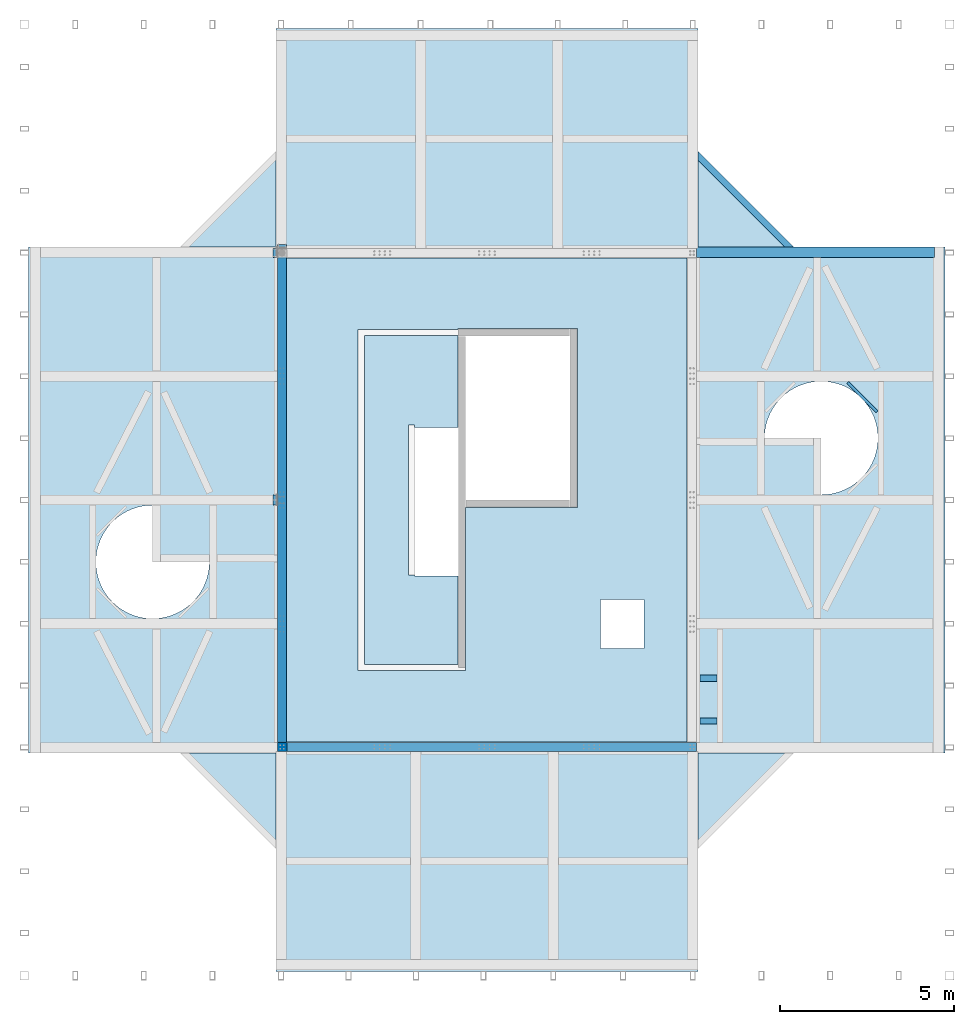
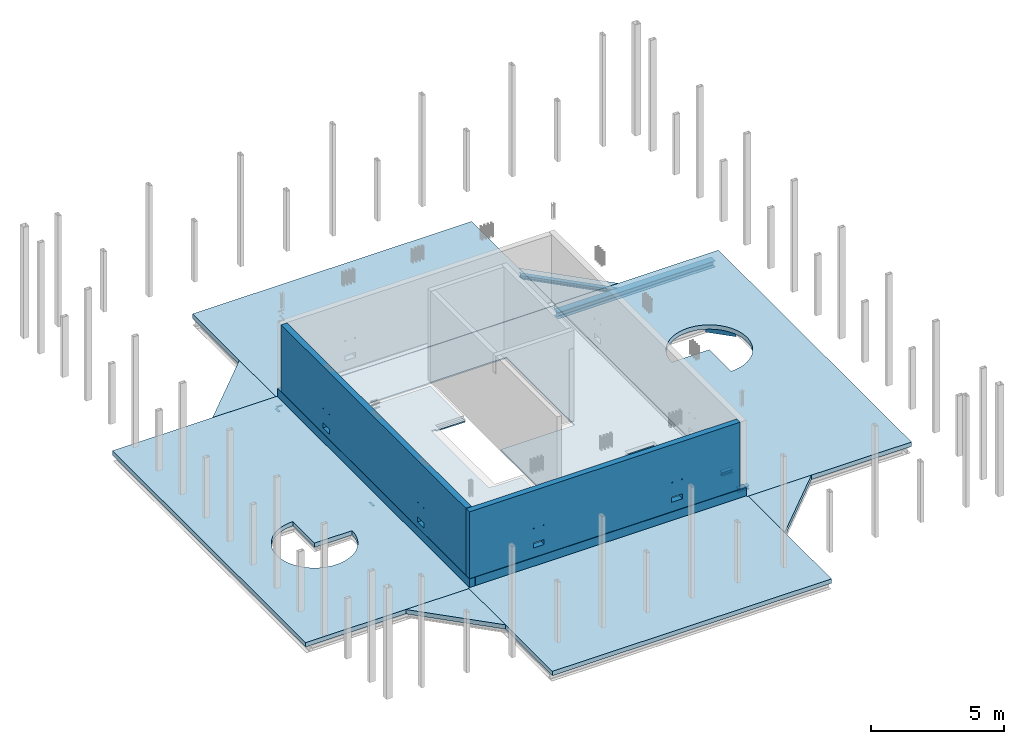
# One storey, part 10 of 16: 10 slabs, 8 beams, 4 walls, 16 openings.
"""IFC2X3 building model written with IfcOpenShell, lengths in millimetres."""

from ifc_helpers import new_model, entity, si_unit, converted_unit, derived_unit, direction, frame, frame_2d, origin, origin_2d_with_axis, place, context, subcontext, project, spatial, polyline, circle_curve, parameter, trimmed, segment, composite_curve, rectangle, circle, i_section, outline, extrude, clip, halfspace, source, transform, mapped, material, layer, layer_set, layer_usage, type_object, type_shapes, element, save


model = new_model("IFC2X3")

# Units and contexts
model_context = context("Model", 3, precision=0.01, world=origin(), true_north=direction((6.12303176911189e-17, 1.0)))
body_context = subcontext(model_context, "Body", "Model", "MODEL_VIEW")
ifc_project = project(units=[si_unit("LENGTHUNIT", "METRE", prefix="MILLI"), si_unit("AREAUNIT", "SQUARE_METRE"), si_unit("VOLUMEUNIT", "CUBIC_METRE"), converted_unit("PLANEANGLEUNIT", "DEGREE", entity("IfcRatioMeasure", 0.0174532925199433), si_unit("PLANEANGLEUNIT", "RADIAN"), dimensions=[0, 0, 0, 0, 0, 0, 0]), si_unit("MASSUNIT", "GRAM", prefix="KILO"), derived_unit("MASSDENSITYUNIT", [(si_unit("MASSUNIT", "GRAM", prefix="KILO"), 1), (si_unit("LENGTHUNIT", "METRE"), -3)]), si_unit("TIMEUNIT", "SECOND"), si_unit("FREQUENCYUNIT", "HERTZ"), si_unit("THERMODYNAMICTEMPERATUREUNIT", "DEGREE_CELSIUS"), derived_unit("THERMALTRANSMITTANCEUNIT", [(si_unit("MASSUNIT", "GRAM", prefix="KILO"), 1), (si_unit("THERMODYNAMICTEMPERATUREUNIT", "KELVIN"), -1), (si_unit("TIMEUNIT", "SECOND"), -3)]), derived_unit("VOLUMETRICFLOWRATEUNIT", [(si_unit("LENGTHUNIT", "METRE"), 3), (si_unit("TIMEUNIT", "SECOND"), -1)]), si_unit("ELECTRICCURRENTUNIT", "AMPERE"), si_unit("ELECTRICVOLTAGEUNIT", "VOLT"), si_unit("POWERUNIT", "WATT"), si_unit("FORCEUNIT", "NEWTON", prefix="KILO"), si_unit("ILLUMINANCEUNIT", "LUX"), si_unit("LUMINOUSFLUXUNIT", "LUMEN"), si_unit("LUMINOUSINTENSITYUNIT", "CANDELA"), derived_unit("USERDEFINED", [(si_unit("MASSUNIT", "GRAM", prefix="KILO"), -1), (si_unit("LENGTHUNIT", "METRE"), -2), (si_unit("TIMEUNIT", "SECOND"), 3), (si_unit("LUMINOUSFLUXUNIT", "LUMEN"), 1)]), derived_unit("LINEARVELOCITYUNIT", [(si_unit("LENGTHUNIT", "METRE"), 1), (si_unit("TIMEUNIT", "SECOND"), -1)]), si_unit("PRESSUREUNIT", "PASCAL"), derived_unit("USERDEFINED", [(si_unit("LENGTHUNIT", "METRE"), -2), (si_unit("MASSUNIT", "GRAM", prefix="KILO"), 1), (si_unit("TIMEUNIT", "SECOND"), -2)])], contexts=[model_context])

# Site, building, storey
site_placement = place(None, origin())
site = spatial("IfcSite", under=ifc_project, at=site_placement, Name="Default", CompositionType="ELEMENT")
building_placement = place(site_placement, origin())
building = spatial("IfcBuilding", under=site, at=building_placement, Name="niet gebruiken", CompositionType="ELEMENT")
storey_placement = place(building_placement, frame((0.0, 0.0, 183150.0)))
storey = spatial("IfcBuildingStorey", under=building, at=storey_placement, Name="58 achtenvijftigste verdieping", CompositionType="ELEMENT", Elevation=183150.0)

# Beams
ifc_material_1 = material(Name="NLRS_h2_staal")
beam_type_1 = type_object("IfcBeamType", Name="NLRS_28.11_SF_WPB_stalen ligger HEA_gen:ligger HEA 300", PredefinedType="BEAM")
beam_1_placement = place(storey_placement, frame((154580.0, 24600.0, -570.0), z_axis=(0.0, 0.0, 1.0), x_axis=(-1.0, 0.0, 0.0)))
element("IfcBeam", 1, at=beam_1_placement, inside=storey, type_object=beam_type_1, material=ifc_material_1, Name="NLRS_28.11_SF_WPB_stalen ligger HEA_gen:ligger HEA 300", ObjectType="NLRS_28.11_SF_WPB_stalen ligger HEA_gen:ligger HEA 300", context=body_context, shape_type="SweptSolid", body=[
    extrude(i_section(OverallWidth=300.000000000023, OverallDepth=290.000000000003, WebThickness=8.4999999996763, FlangeThickness=14.0000000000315, FilletRadius=27.0000000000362, at=frame_2d((-3.46460637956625e-11, 0.0), x_axis=(0.0, 1.0))), frame((0.0, 0.0, -145.0), z_axis=(1.0, 0.0, 0.0), x_axis=(0.0, 0.0, -1.0)), (0.0, 0.0, 1.0), 6830.00000000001),
])
beam_type_2 = type_object("IfcBeamType", Name="NLRS_28.11_SF_WPB_stalen ligger HEA_gen:ligger HEA 180", PredefinedType="BEAM")
beam_2_placement = place(storey_placement, frame((150772.26049696, 24390.460282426, -570.0), z_axis=(0.0, 0.0, 1.0), x_axis=(-0.70710678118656, 0.707106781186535, 0.0)))
element("IfcBeam", 2, at=beam_2_placement, inside=storey, type_object=beam_type_2, material=ifc_material_1, Name="NLRS_28.11_SF_WPB_stalen ligger HEA_gen:ligger HEA 180", ObjectType="NLRS_28.11_SF_WPB_stalen ligger HEA_gen:ligger HEA 180", context=body_context, shape_type="Clipping", body=[
    clip(clip(extrude(outline(composite_curve([segment(polyline([(76.0, -90.0), (85.5000000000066, -90.0)]), True, "CONTINUOUS"), segment(polyline([(85.5000000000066, -90.0), (85.5000000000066, 90.0)]), True, "CONTINUOUS"), segment(polyline([(85.5000000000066, 90.0), (76.0, 90.0)]), True, "CONTINUOUS"), segment(polyline([(76.0, 90.0), (76.0, 18.0)]), True, "CONTINUOUS"), segment(trimmed(circle_curve(frame_2d((61.0, 18.0), x_axis=(1.0, 0.0)), 15.0000000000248), [parameter(270.000000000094)], [parameter(0.0)], True, "PARAMETER"), False, "CONTINUOUS"), segment(polyline([(61.0, 3.0), (-61.0, 3.0)]), True, "CONTINUOUS"), segment(trimmed(circle_curve(frame_2d((-61.0, 18.0), x_axis=(0.0, -1.0)), 15.0000000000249), [parameter(270.000000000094)], [parameter(0.0)], True, "PARAMETER"), False, "CONTINUOUS"), segment(polyline([(-76.0, 18.0), (-76.0, 90.0)]), True, "CONTINUOUS"), segment(polyline([(-76.0, 90.0), (-85.5000000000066, 90.0)]), True, "CONTINUOUS"), segment(polyline([(-85.5000000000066, 90.0), (-85.5000000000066, -90.0)]), True, "CONTINUOUS"), segment(polyline([(-85.5000000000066, -90.0), (-76.0, -90.0)]), True, "CONTINUOUS"), segment(polyline([(-76.0, -90.0), (-76.0, -18.0)]), True, "CONTINUOUS"), segment(trimmed(circle_curve(frame_2d((-61.0, -18.0), x_axis=(-1.0, 0.0)), 15.0000000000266), [parameter(270.000000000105)], [parameter(0.0)], True, "PARAMETER"), False, "CONTINUOUS"), segment(polyline([(-61.0, -3.0), (61.0, -3.0)]), True, "CONTINUOUS"), segment(trimmed(circle_curve(frame_2d((61.0, -18.0), x_axis=(0.0, 1.0)), 15.0000000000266), [parameter(270.000000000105)], [parameter(0.0)], True, "PARAMETER"), False, "CONTINUOUS"), segment(polyline([(76.0, -18.0), (76.0, -90.0)]), True, "CONTINUOUS")], self_intersect=False)), frame((418.465944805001, 0.0, -85.5000000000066), z_axis=(1.0, 0.0, 0.0), x_axis=(0.0, 0.0, -1.0)), (0.0, 0.0, 1.0), 3874.94516090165), halfspace(frame((897.375497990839, 388.909553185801, -5005.5), z_axis=(-0.707106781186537, 0.707106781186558, 0.0), x_axis=(0.0, 0.0, 1.0)), False)), halfspace(frame((-22608.541775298, 26811.9528810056, 2165.0), z_axis=(0.70710678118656, 0.707106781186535, 0.0), x_axis=(-0.707106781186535, 0.70710678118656, 0.0)), False)),
])
for number, where, name in (
    (3, (147850.0, 11169.9999452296, -570.0), "NLRS_28.11_SF_WPB_stalen ligger HEA_gen:ligger HEA 180"),
    (4, (147850.0, 12389.9999452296, -570.0), "NLRS_28.11_SF_WPB_stalen ligger HEA_gen:ligger HEA 180"),
):
    element("IfcBeam", number, at=place(storey_placement, frame(where)), inside=storey, type_object=beam_type_2, material=ifc_material_1, Name=name, ObjectType="NLRS_28.11_SF_WPB_stalen ligger HEA_gen:ligger HEA 180", context=body_context, shape_type="SweptSolid", body=[
        extrude(i_section(OverallWidth=180.000000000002, OverallDepth=171.000000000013, WebThickness=5.99999999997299, FlangeThickness=9.49999999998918, FilletRadius=15.0000000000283, at=frame_2d((-3.46531692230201e-11, 1.08713038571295e-12), x_axis=(0.0, 1.0))), frame((0.0, 0.0, -85.5000000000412), z_axis=(1.0, 0.0, 0.0), x_axis=(0.0, 0.0, -1.0)), (0.0, 0.0, 1.0), 489.999999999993),
    ])
beam_type_3 = type_object("IfcBeamType", Name="NLRS_28.11_SF_WPB_stalen ligger UNP_gen:ligger UNP 200", PredefinedType="BEAM")
beam_3_placement = place(storey_placement, frame((153045.0, 19858.0970388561, -570.0), z_axis=(0.0, 0.0, 1.0), x_axis=(-0.707106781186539, 0.707106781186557, 0.0)))
element("IfcBeam", 5, at=beam_3_placement, inside=storey, type_object=beam_type_3, material=ifc_material_1, Name="NLRS_28.11_SF_WPB_stalen ligger UNP_gen:ligger UNP 200", ObjectType="NLRS_28.11_SF_WPB_stalen ligger UNP_gen:ligger UNP 200", context=body_context, shape_type="SweptSolid", body=[
    extrude(outline(composite_curve([segment(polyline([(94.8577017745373, -33.7500000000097), (99.9376027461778, -33.7500000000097)]), True, "CONTINUOUS"), segment(polyline([(99.9376027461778, -33.7499999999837), (99.9376027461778, 41.250000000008)]), True, "CONTINUOUS"), segment(polyline([(99.9376027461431, 41.250000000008), (-100.062397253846, 41.250000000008)]), True, "CONTINUOUS"), segment(polyline([(-100.062397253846, 41.250000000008), (-100.062397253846, -33.7500000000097)]), True, "CONTINUOUS"), segment(polyline([(-100.062397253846, -33.7500000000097), (-95.2474593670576, -33.7500000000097)]), True, "CONTINUOUS"), segment(trimmed(circle_curve(frame_2d((-95.2474593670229, -27.7500000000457), x_axis=(0.0, -1.0)), 5.9999999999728), [parameter(0.0)], [parameter(90.0000000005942)], True, "PARAMETER"), True, "CONTINUOUS"), segment(polyline([(-89.2474593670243, -27.7500000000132), (-85.3908606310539, 21.2499999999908)]), True, "CONTINUOUS"), segment(trimmed(circle_curve(frame_2d((-73.8908606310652, 21.2500000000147), x_axis=(-1.0, 0.0)), 11.4999999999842), [parameter(269.999999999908)], [parameter(0.0)], True, "PARAMETER"), False, "CONTINUOUS"), segment(polyline([(-73.8908606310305, 32.7499999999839), (74.4054127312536, 32.7499999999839)]), True, "CONTINUOUS"), segment(trimmed(circle_curve(frame_2d((74.4054127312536, 21.2500000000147), x_axis=(0.0, 1.0)), 11.4999999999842), [parameter(269.999999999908)], [parameter(0.0)], True, "PARAMETER"), False, "CONTINUOUS"), segment(polyline([(85.9054127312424, 21.2499999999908), (88.8577017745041, -27.7500000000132)]), True, "CONTINUOUS"), segment(trimmed(circle_curve(frame_2d((94.857701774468, -27.7500000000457), x_axis=(-1.0, 0.0)), 5.9999999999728), [parameter(0.0)], [parameter(90.0000000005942)], True, "PARAMETER"), True, "CONTINUOUS")], self_intersect=False)), frame((202.279220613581, -41.2500000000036, -100.062397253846), z_axis=(1.0, 0.0, 0.0), x_axis=(0.0, 0.0, -1.0)), (0.0, 0.0, 1.0), 1186.19407771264),
])
beam_type_4 = type_object("IfcBeamType", Name="ligger stripstaal RECT_250x15", PredefinedType="BEAM", material=ifc_material_1)
shared_shape_1 = source(origin(), body_context, "Body", "SweptSolid", [
    extrude(rectangle(XDim=100.000000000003, YDim=250.000000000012, at=origin_2d_with_axis()), frame((135875.0, 24775.0, 182265.0), z_axis=(0.0, 0.0, 1.0), x_axis=(0.0, -1.0, 0.0)), (0.0, 0.0, 1.0), 14.9999999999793),
    extrude(rectangle(XDim=100.000000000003, YDim=250.000000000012, at=origin_2d_with_axis()), frame((135875.0, 24775.0, 182265.0), z_axis=(0.0, 0.0, 1.0), x_axis=(0.0, -1.0, 0.0)), (0.0, 0.0, 1.0), 14.9999999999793),
])
type_shapes(beam_type_4, [shared_shape_1])
beam_4_placement = place(storey_placement, frame((0.0, 0.0, -183150.0)))
element("IfcBeam", 6, at=beam_4_placement, inside=storey, type_object=beam_type_4, material=ifc_material_1, Name="NLRS_28.11_SF_WPB_stalen ligger stripstaal_gen:ligger stripstaal RECT_250x15", ObjectType="ligger stripstaal RECT_250x15", context=body_context, shape_type="MappedRepresentation", body=[
    mapped(shared_shape_1, transform((0.0, 0.0, 0.0), scale=1.0)),
])
beam_type_5 = type_object("IfcBeamType", Name="ligger stripstaal RECT_250x15", PredefinedType="BEAM", material=ifc_material_1)
shared_shape_2 = source(origin(), body_context, "Body", "SweptSolid", [
    extrude(rectangle(XDim=100.000000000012, YDim=249.999999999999, at=frame_2d((8.66506866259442e-12, 0.0), x_axis=(1.0, 0.0))), frame((135674.972129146, 24575.0, 182265.0)), (0.0, 0.0, 1.0), 14.9999999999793),
    extrude(rectangle(XDim=100.000000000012, YDim=249.999999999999, at=frame_2d((8.66506866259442e-12, 0.0), x_axis=(1.0, 0.0))), frame((135674.972129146, 24575.0, 182265.0)), (0.0, 0.0, 1.0), 14.9999999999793),
])
type_shapes(beam_type_5, [shared_shape_2])
beam_5_placement = place(storey_placement, frame((0.0, 0.0, -183150.0)))
element("IfcBeam", 7, at=beam_5_placement, inside=storey, type_object=beam_type_5, material=ifc_material_1, Name="NLRS_28.11_SF_WPB_stalen ligger stripstaal_gen:ligger stripstaal RECT_250x15", ObjectType="ligger stripstaal RECT_250x15", context=body_context, shape_type="MappedRepresentation", body=[
    mapped(shared_shape_2, transform((0.0, 0.0, 0.0), scale=1.0)),
])
beam_type_6 = type_object("IfcBeamType", Name="ligger stripstaal RECT_300x15", PredefinedType="BEAM", material=ifc_material_1)
shared_shape_3 = source(origin(), body_context, "Body", "SweptSolid", [
    extrude(rectangle(XDim=100.000000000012, YDim=300.000000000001, at=origin_2d_with_axis()), frame((135674.972129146, 17500.0, 182255.0)), (0.0, 0.0, 1.0), 14.9999999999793),
    extrude(rectangle(XDim=100.000000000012, YDim=300.000000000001, at=origin_2d_with_axis()), frame((135674.972129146, 17500.0, 182255.0)), (0.0, 0.0, 1.0), 14.9999999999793),
])
type_shapes(beam_type_6, [shared_shape_3])
beam_6_placement = place(storey_placement, frame((0.0, 0.0, -183150.0)))
element("IfcBeam", 8, at=beam_6_placement, inside=storey, type_object=beam_type_6, material=ifc_material_1, Name="NLRS_28.11_SF_WPB_stalen ligger stripstaal_gen:ligger stripstaal RECT_300x15", ObjectType="ligger stripstaal RECT_300x15", context=body_context, shape_type="MappedRepresentation", body=[
    mapped(shared_shape_3, transform((0.0, 0.0, 0.0), scale=1.0)),
])

# Slabs
ifc_material_2 = material(Name="NLRS_f2_beton ihwg")
ifc_layer_1 = layer(ifc_material_2, 200.0)
ifc_layer_set_1 = layer_set([ifc_layer_1], Name="Floor:NLRS_23.21_FL_staalplaatbetonvloer d=200_gen")
ifc_layer_usage_1 = layer_usage(ifc_layer_set_1, "AXIS3", "POSITIVE", 0.0)
slab_1_placement = place(storey_placement, origin())
element("IfcSlab", 9, at=slab_1_placement, inside=storey, material=ifc_layer_usage_1, Name="Floor:NLRS_23.21_FL_staalplaatbetonvloer d=200_gen", ObjectType="Floor:NLRS_23.21_FL_staalplaatbetonvloer d=200_gen", PredefinedType="FLOOR", context=body_context, shape_type="SweptSolid", body=[
    extrude(outline(polyline([(-2068.33333333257, -4050.0), (4186.66666666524, -4050.0), (4186.66666666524, 8050.0), (-2118.33333333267, 8050.0), (-2118.33333333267, -4000.0), (-2068.33333333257, -4000.0), (-2068.33333333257, -4050.0)])), frame((139750.0, 26818.3333333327, -370.0), z_axis=(0.0, 0.0, -1.0), x_axis=(0.0, 1.0, 0.0)), (0.0, 0.0, 1.0), 199.999999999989),
])
ifc_layer_usage_2 = layer_usage(ifc_layer_set_1, "AXIS3", "POSITIVE", 0.0)
slab_2_placement = place(storey_placement, origin())
element("IfcSlab", 10, at=slab_2_placement, inside=storey, material=ifc_layer_usage_2, Name="Floor:NLRS_23.21_FL_staalplaatbetonvloer d=200_gen", ObjectType="Floor:NLRS_23.21_FL_staalplaatbetonvloer d=200_gen", PredefinedType="FLOOR", context=body_context, shape_type="SweptSolid", body=[
    extrude(outline(polyline([(-913.333333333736, -913.333333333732), (1826.66666666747, -913.333333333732), (-913.333333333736, 1826.66666666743), (-913.333333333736, -913.333333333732)])), frame((134786.666666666, 9336.66666666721, -370.0), z_axis=(0.0, 0.0, -1.0), x_axis=(0.0, -1.0, 0.0)), (0.0, 0.0, 1.0), 199.999999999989),
])

# Slab, opening
ifc_layer_usage_3 = layer_usage(ifc_layer_set_1, "AXIS3", "POSITIVE", 0.0)
slab_3_placement = place(storey_placement, frame((147750.0, 10250.0, -570.0)))
slab_3 = element("IfcSlab", 11, at=slab_3_placement, inside=storey, material=ifc_layer_usage_3, Name="Floor:NLRS_23.21_FL_staalplaatbetonvloer d=200_gen", ObjectType="Floor:NLRS_23.21_FL_staalplaatbetonvloer d=200_gen", PredefinedType="FLOOR", context=body_context, shape_type="SweptSolid", body=[
    extrude(rectangle(XDim=14499.9999999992, YDim=7129.99999999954, at=frame_2d((0.0, 0.0), x_axis=(0.0, 1.0))), frame((3565.0, 7250.0, 200.0), z_axis=(0.0, 0.0, -1.0), x_axis=(-1.0, 0.0, 0.0)), (0.0, 0.0, 1.0), 199.999999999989),
])
opening_1_placement = place(slab_3_placement, frame((3038.33333333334, 8483.3333333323, 200.0)))
element("IfcOpeningElement", 12, at=opening_1_placement, cuts=slab_3, Name="Floor:NLRS_23.21_FL_staalplaatbetonvloer d=200_gen:2", ObjectType="Opening", context=body_context, shape_type="SweptSolid", body=[
    extrude(outline(composite_curve([segment(trimmed(circle_curve(frame_2d((541.666666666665, -541.66666666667), x_axis=(1.0, 0.0)), 1625.0), [parameter(180.0)], [parameter(90.0000000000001)], True, "PARAMETER"), True, "CONTINUOUS"), segment(polyline([(541.666666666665, 1083.33333333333), (541.666666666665, -541.66666666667)]), True, "CONTINUOUS"), segment(polyline([(541.666666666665, -541.66666666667), (-1083.33333333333, -541.66666666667)]), True, "CONTINUOUS")], self_intersect=False)), frame((0.0, 0.0, 0.0), z_axis=(0.0, 0.0, -1.0), x_axis=(1.0, 0.0, 0.0)), (0.0, 0.0, 1.0), 199.999999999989),
])

# Slab
ifc_layer_usage_4 = layer_usage(ifc_layer_set_1, "AXIS3", "POSITIVE", 0.0)
slab_4_placement = place(storey_placement, origin())
element("IfcSlab", 13, at=slab_4_placement, inside=storey, material=ifc_layer_usage_4, Name="Floor:NLRS_23.21_FL_staalplaatbetonvloer d=200_gen", ObjectType="Floor:NLRS_23.21_FL_staalplaatbetonvloer d=200_gen", PredefinedType="FLOOR", context=body_context, shape_type="SweptSolid", body=[
    extrude(outline(polyline([(-4186.66666666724, -8050.0), (2118.33333333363, -8050.0), (2118.33333333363, 4000.0), (2068.33333333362, 4000.0), (2068.33333333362, 4050.0), (-4186.66666666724, 4050.0), (-4186.66666666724, -8050.0)])), frame((143750.0, 8181.6666666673, -370.0), z_axis=(0.0, 0.0, -1.0), x_axis=(0.0, 1.0, 0.0)), (0.0, 0.0, 1.0), 199.999999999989),
])

# Slab, opening
ifc_layer_usage_5 = layer_usage(ifc_layer_set_1, "AXIS3", "POSITIVE", 0.0)
slab_5_placement = place(storey_placement, frame((128620.0, 10250.0, -570.0)))
slab_5 = element("IfcSlab", 14, at=slab_5_placement, inside=storey, material=ifc_layer_usage_5, Name="Floor:NLRS_23.21_FL_staalplaatbetonvloer d=200_gen", ObjectType="Floor:NLRS_23.21_FL_staalplaatbetonvloer d=200_gen", PredefinedType="FLOOR", context=body_context, shape_type="SweptSolid", body=[
    extrude(rectangle(XDim=14499.9999999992, YDim=7130.00000000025, at=frame_2d((0.0, 0.0), x_axis=(0.0, -1.0))), frame((3565.0, 7250.0, 200.0), z_axis=(0.0, 0.0, -1.0), x_axis=(-1.0, 0.0, 0.0)), (0.0, 0.0, 1.0), 199.999999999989),
])
opening_2_placement = place(slab_5_placement, frame((4091.66666666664, 6016.66666666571, 200.0)))
element("IfcOpeningElement", 15, at=opening_2_placement, cuts=slab_5, Name="Floor:NLRS_23.21_FL_staalplaatbetonvloer d=200_gen:2", ObjectType="Opening", context=body_context, shape_type="SweptSolid", body=[
    extrude(outline(composite_curve([segment(trimmed(circle_curve(frame_2d((-541.666666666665, 541.666666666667), x_axis=(1.0, 0.0)), 1625.0), [parameter(0.0)], [parameter(270.0)], True, "PARAMETER"), True, "CONTINUOUS"), segment(polyline([(-541.666666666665, -1083.33333333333), (-541.666666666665, 541.666666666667)]), True, "CONTINUOUS"), segment(polyline([(-541.666666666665, 541.666666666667), (1083.33333333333, 541.666666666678)]), True, "CONTINUOUS")], self_intersect=False)), frame((0.0, 0.0, 0.0), z_axis=(0.0, 0.0, -1.0), x_axis=(1.0, 0.0, 0.0)), (0.0, 0.0, 1.0), 199.999999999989),
])

# Slabs
ifc_layer_usage_6 = layer_usage(ifc_layer_set_1, "AXIS3", "POSITIVE", 0.0)
slab_6_placement = place(storey_placement, origin())
element("IfcSlab", 16, at=slab_6_placement, inside=storey, material=ifc_layer_usage_6, Name="Floor:NLRS_23.21_FL_staalplaatbetonvloer d=200_gen", ObjectType="Floor:NLRS_23.21_FL_staalplaatbetonvloer d=200_gen", PredefinedType="FLOOR", context=body_context, shape_type="SweptSolid", body=[
    extrude(outline(polyline([(-913.333333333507, -913.333333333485), (1826.66666666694, -913.333333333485), (-913.333333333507, 1826.66666666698), (-913.333333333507, -913.333333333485)])), frame((134786.666666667, 25663.3333333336, -370.0), z_axis=(0.0, 0.0, -1.0), x_axis=(-1.0, 0.0, 0.0)), (0.0, 0.0, 1.0), 199.999999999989),
])
ifc_layer_usage_7 = layer_usage(ifc_layer_set_1, "AXIS3", "POSITIVE", 0.0)
slab_7_placement = place(storey_placement, origin())
element("IfcSlab", 17, at=slab_7_placement, inside=storey, material=ifc_layer_usage_7, Name="Floor:NLRS_23.21_FL_staalplaatbetonvloer d=200_gen", ObjectType="Floor:NLRS_23.21_FL_staalplaatbetonvloer d=200_gen", PredefinedType="FLOOR", context=body_context, shape_type="SweptSolid", body=[
    extrude(outline(polyline([(-913.333333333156, -913.333333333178), (1826.66666666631, -913.333333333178), (-913.333333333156, 1826.66666666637), (-913.333333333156, -913.333333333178)])), frame((148713.333333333, 25663.3333333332, -370.0), z_axis=(0.0, 0.0, -1.0), x_axis=(0.0, 1.0, 0.0)), (0.0, 0.0, 1.0), 199.999999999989),
])
ifc_layer_usage_8 = layer_usage(ifc_layer_set_1, "AXIS3", "POSITIVE", 0.0)
slab_8_placement = place(storey_placement, origin())
element("IfcSlab", 18, at=slab_8_placement, inside=storey, material=ifc_layer_usage_8, Name="Floor:NLRS_23.21_FL_staalplaatbetonvloer d=200_gen", ObjectType="Floor:NLRS_23.21_FL_staalplaatbetonvloer d=200_gen", PredefinedType="FLOOR", context=body_context, shape_type="SweptSolid", body=[
    extrude(outline(polyline([(-1826.66666666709, -913.333333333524), (913.333333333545, -913.333333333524), (913.333333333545, 1826.66666666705), (-1826.66666666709, -913.333333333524)])), frame((148713.333333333, 9336.66666666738, -370.0), z_axis=(0.0, 0.0, -1.0), x_axis=(0.0, 1.0, 0.0)), (0.0, 0.0, 1.0), 199.999999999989),
])

# Slab, openings
ifc_material_3 = material(Name="NLRS_f2_beton prefab")
ifc_layer_2 = layer(ifc_material_3, 60.0)
ifc_layer_set_2 = layer_set([ifc_layer_2], Name="Floor:NLRS_23.21_FL_breedplaat d=60_gen")
ifc_layer_usage_9 = layer_usage(ifc_layer_set_2, "AXIS3", "POSITIVE", 0.0)
slab_9_placement = place(storey_placement, frame((136010.0, 10560.0, -230.0)))
slab_9 = element("IfcSlab", 19, at=slab_9_placement, inside=storey, material=ifc_layer_usage_9, Name="Floor:NLRS_23.21_FL_breedplaat d=60_gen", ObjectType="Floor:NLRS_23.21_FL_breedplaat d=60_gen", PredefinedType="FLOOR", context=body_context, shape_type="SweptSolid", body=[
    extrude(rectangle(XDim=13879.9999999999, YDim=11480.0, at=frame_2d((0.0, 0.0), x_axis=(0.0, -1.0))), frame((5740.0, 6940.0, 60.0), z_axis=(0.0, 0.0, -1.0), x_axis=(-1.0, 0.0, 0.0)), (0.0, 0.0, 1.0), 59.9999999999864),
])
opening_3_placement = place(slab_9_placement, frame((5105.0, 8115.0, 60.0)))
element("IfcOpeningElement", 20, at=opening_3_placement, cuts=slab_9, Name="Floor:NLRS_23.21_FL_breedplaat d=60_gen:2", ObjectType="Opening", context=body_context, shape_type="SweptSolid", body=[
    extrude(outline(polyline([(3715.0, -195.0), (3735.0, -195.0), (3735.0, 3225.0), (-1385.0, 3225.0), (-1385.0, 25.0), (-6065.0, 25.0), (-6065.0, -3055.0), (3715.0, -3055.0), (3715.0, -195.0)])), frame((0.0, 0.0, 0.0), z_axis=(0.0, 0.0, -1.0), x_axis=(0.0, 1.0, 0.0)), (0.0, 0.0, 1.0), 59.9999999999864),
])
opening_4_placement = place(slab_9_placement, frame((9615.0, 3390.0, 60.0)))
element("IfcOpeningElement", 21, at=opening_4_placement, cuts=slab_9, Name="Floor:NLRS_23.21_FL_breedplaat d=60_gen:3", ObjectType="Opening", context=body_context, shape_type="SweptSolid", body=[
    extrude(rectangle(XDim=1399.99999999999, YDim=1249.99999999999, at=origin_2d_with_axis()), frame((0.0, 0.0, 0.0), z_axis=(0.0, 0.0, -1.0), x_axis=(0.0, -1.0, 0.0)), (0.0, 0.0, 1.0), 59.9999999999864),
])

# Slab
slab_10_placement = place(storey_placement, frame((136010.0, 10560.0, -230.0)))
element("IfcSlab", 22, at=slab_10_placement, inside=storey, material=ifc_layer_usage_9, Name="Floor:NLRS_23.21_FL_breedplaat d=60_gen:2", ObjectType="Floor:NLRS_23.21_FL_breedplaat d=60_gen", PredefinedType="FLOOR", context=body_context, shape_type="SweptSolid", body=[
    extrude(outline(polyline([(830.0, 4710.0), (830.0, 2080.0), (2070.0, 2080.0), (2070.0, 2150.0), (2250.0, 2150.0), (2250.0, -2150.0), (2070.0, -2150.0), (2070.0, -2180.0), (830.0, -2180.0), (830.0, -4710.0), (3510.0, -4710.0), (3510.0, 4710.0), (830.0, 4710.0)])), frame((5740.0, 6940.0, 60.0), z_axis=(0.0, 0.0, -1.0), x_axis=(-1.0, 0.0, 0.0)), (0.0, 0.0, 1.0), 59.9999999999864),
])

# Wall, openings
ifc_layer_3 = layer(ifc_material_3, 250.0)
ifc_layer_set_3 = layer_set([ifc_layer_3], Name="Basic Wall:NLRS_22.21_WA_beton prefab d=250_gen")
ifc_layer_usage_10 = layer_usage(ifc_layer_set_3, "AXIS2", "NEGATIVE", 125.0)
wall_type = type_object("IfcWallType", Name="Basic Wall:NLRS_22.21_WA_beton prefab d=250_gen", PredefinedType="STANDARD", material=ifc_layer_set_3)
wall_1_placement = place(storey_placement, frame((135875.0, 24430.0, 35.0), z_axis=(0.0, 0.0, 1.0), x_axis=(0.0, -1.0, 0.0)))
wall_1 = element("IfcWallStandardCase", 23, at=wall_1_placement, inside=storey, type_object=wall_type, material=ifc_layer_usage_10, Name="Basic Wall:NLRS_22.21_WA_beton prefab d=250_gen", ObjectType="Basic Wall:NLRS_22.21_WA_beton prefab d=250_gen", context=body_context, shape_type="SweptSolid", body=[
    extrude(rectangle(XDim=13860.0, YDim=250.000000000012, at=frame_2d((6930.0, 0.0), x_axis=(-1.0, 0.0))), origin(), (0.0, 0.0, 1.0), 3059.99999999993),
])
opening_5_placement = place(wall_1_placement, origin())
element("IfcOpeningElement", 24, at=opening_5_placement, cuts=wall_1, Name="Basic Wall:NLRS_22.21_WA_beton prefab d=250_gen", ObjectType="Opening", context=body_context, shape_type="SweptSolid", body=[
    extrude(rectangle(XDim=230.000000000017, YDim=470.000000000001, at=frame_2d((1.73230318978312e-11, 0.0), x_axis=(1.0, 0.0))), frame((3380.00004991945, -125.0, 365.0), z_axis=(0.0, 1.0, 0.0), x_axis=(0.0, 0.0, -1.0)), (0.0, 0.0, 1.0), 250.000000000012),
])
opening_6_placement = place(wall_1_placement, origin())
element("IfcOpeningElement", 25, at=opening_6_placement, cuts=wall_1, Name="Basic Wall:NLRS_22.21_WA_beton prefab d=250_gen", ObjectType="Opening", context=body_context, shape_type="SweptSolid", body=[
    extrude(rectangle(XDim=230.000000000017, YDim=470.000000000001, at=frame_2d((1.73230318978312e-11, -2.17426077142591e-12), x_axis=(1.0, 0.0))), frame((10480.0000499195, -125.0, 365.0), z_axis=(0.0, 1.0, 0.0), x_axis=(0.0, 0.0, -1.0)), (0.0, 0.0, 1.0), 250.000000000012),
])
opening_7_placement = place(wall_1_placement, origin())
element("IfcOpeningElement", 26, at=opening_7_placement, cuts=wall_1, Name="Basic Wall:NLRS_22.21_WA_beton prefab d=250_gen", ObjectType="Opening", context=body_context, shape_type="SweptSolid", body=[
    extrude(circle(Radius=25.0, at=origin_2d_with_axis()), frame((10265.0032929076, -299.996757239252, 1149.99694824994), z_axis=(-3.8150000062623e-06, 1.0, 0.0), x_axis=(1.0, 3.8150000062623e-06, 0.0)), (0.0, 0.0, 1.0), 600.000000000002),
])
opening_8_placement = place(wall_1_placement, origin())
element("IfcOpeningElement", 27, at=opening_8_placement, cuts=wall_1, Name="Basic Wall:NLRS_22.21_WA_beton prefab d=250_gen", ObjectType="Opening", context=body_context, shape_type="SweptSolid", body=[
    extrude(circle(Radius=25.0, at=origin_2d_with_axis()), frame((3165.00329291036, -299.996757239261, 1149.99694824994), z_axis=(-3.8150000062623e-06, 1.0, 0.0), x_axis=(1.0, 3.8150000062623e-06, 0.0)), (0.0, 0.0, 1.0), 600.000000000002),
])
opening_9_placement = place(wall_1_placement, origin())
element("IfcOpeningElement", 28, at=opening_9_placement, cuts=wall_1, Name="Basic Wall:NLRS_22.21_WA_beton prefab d=250_gen", ObjectType="Opening", context=body_context, shape_type="SweptSolid", body=[
    extrude(circle(Radius=25.0, at=origin_2d_with_axis()), frame((3595.00233916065, -299.996757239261, 1149.99694824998), z_axis=(-3.8150000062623e-06, 1.0, 0.0), x_axis=(1.0, 3.8150000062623e-06, 0.0)), (0.0, 0.0, 1.0), 600.000000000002),
])
opening_10_placement = place(wall_1_placement, origin())
element("IfcOpeningElement", 29, at=opening_10_placement, cuts=wall_1, Name="Basic Wall:NLRS_22.21_WA_beton prefab d=250_gen", ObjectType="Opening", context=body_context, shape_type="SweptSolid", body=[
    extrude(circle(Radius=25.0, at=origin_2d_with_axis()), frame((10695.0032929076, -299.996757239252, 1149.99694824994), z_axis=(-3.8150000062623e-06, 1.0, 0.0), x_axis=(1.0, 3.8150000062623e-06, 0.0)), (0.0, 0.0, 1.0), 600.000000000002),
])

ifc_layer_usage_11 = layer_usage(ifc_layer_set_3, "AXIS2", "NEGATIVE", 125.0)
wall_2_placement = place(storey_placement, frame((135750.0, 10425.0, 35.0)))
wall_2 = element("IfcWallStandardCase", 30, at=wall_2_placement, inside=storey, type_object=wall_type, material=ifc_layer_usage_11, Name="Basic Wall:NLRS_22.21_WA_beton prefab d=250_gen", ObjectType="Basic Wall:NLRS_22.21_WA_beton prefab d=250_gen", context=body_context, shape_type="SweptSolid", body=[
    extrude(rectangle(XDim=11729.9999999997, YDim=249.999999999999, at=frame_2d((5864.99999999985, 0.0), x_axis=(-1.0, 0.0))), origin(), (0.0, 0.0, 1.0), 3059.99999999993),
])
opening_11_placement = place(wall_2_placement, origin())
element("IfcOpeningElement", 31, at=opening_11_placement, cuts=wall_2, Name="Basic Wall:NLRS_22.21_WA_beton prefab d=250_gen", ObjectType="Opening", context=body_context, shape_type="SweptSolid", body=[
    extrude(rectangle(XDim=230.000000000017, YDim=469.999999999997, at=frame_2d((1.73230318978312e-11, 0.0), x_axis=(1.0, 0.0))), frame((3000.03407201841, -125.0, 545.0), z_axis=(0.0, 1.0, 0.0), x_axis=(0.0, 0.0, -1.0)), (0.0, 0.0, 1.0), 249.999999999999),
])
opening_12_placement = place(wall_2_placement, origin())
element("IfcOpeningElement", 32, at=opening_12_placement, cuts=wall_2, Name="Basic Wall:NLRS_22.21_WA_beton prefab d=250_gen", ObjectType="Opening", context=body_context, shape_type="SweptSolid", body=[
    extrude(rectangle(XDim=230.000000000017, YDim=469.999999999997, at=frame_2d((1.73230318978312e-11, 0.0), x_axis=(1.0, 0.0))), frame((9000.03407201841, -125.0, 545.0), z_axis=(0.0, 1.0, 0.0), x_axis=(0.0, 0.0, -1.0)), (0.0, 0.0, 1.0), 249.999999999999),
])
opening_13_placement = place(wall_2_placement, origin())
element("IfcOpeningElement", 33, at=opening_13_placement, cuts=wall_2, Name="Basic Wall:NLRS_22.21_WA_beton prefab d=250_gen", ObjectType="Opening", context=body_context, shape_type="SweptSolid", body=[
    extrude(circle(Radius=25.0, at=origin_2d_with_axis()), frame((2785.0352180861, -300.0, 1330.00694824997), z_axis=(-3.81500000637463e-06, 1.0, 0.0), x_axis=(1.0, 3.81500000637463e-06, 0.0)), (0.0, 0.0, 1.0), 599.999999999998),
])
opening_14_placement = place(wall_2_placement, origin())
element("IfcOpeningElement", 34, at=opening_14_placement, cuts=wall_2, Name="Basic Wall:NLRS_22.21_WA_beton prefab d=250_gen", ObjectType="Opening", context=body_context, shape_type="SweptSolid", body=[
    extrude(circle(Radius=25.0, at=origin_2d_with_axis()), frame((3215.03426433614, -300.0, 1330.00694824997), z_axis=(-3.81500000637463e-06, 1.0, 0.0), x_axis=(1.0, 3.81500000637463e-06, 0.0)), (0.0, 0.0, 1.0), 599.999999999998),
])
opening_15_placement = place(wall_2_placement, origin())
element("IfcOpeningElement", 35, at=opening_15_placement, cuts=wall_2, Name="Basic Wall:NLRS_22.21_WA_beton prefab d=250_gen", ObjectType="Opening", context=body_context, shape_type="SweptSolid", body=[
    extrude(circle(Radius=25.0, at=origin_2d_with_axis()), frame((8785.03521808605, -300.0, 1330.00694824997), z_axis=(-3.81500000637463e-06, 1.0, 0.0), x_axis=(1.0, 3.81500000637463e-06, 0.0)), (0.0, 0.0, 1.0), 599.999999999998),
])
opening_16_placement = place(wall_2_placement, origin())
element("IfcOpeningElement", 36, at=opening_16_placement, cuts=wall_2, Name="Basic Wall:NLRS_22.21_WA_beton prefab d=250_gen", ObjectType="Opening", context=body_context, shape_type="SweptSolid", body=[
    extrude(circle(Radius=25.0, at=origin_2d_with_axis()), frame((9215.03521808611, -300.0, 1330.00694824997), z_axis=(-3.81500000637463e-06, 1.0, 0.0), x_axis=(1.0, 3.81500000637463e-06, 0.0)), (0.0, 0.0, 1.0), 599.999999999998),
])

# Walls
ifc_layer_usage_12 = layer_usage(ifc_layer_set_3, "AXIS2", "NEGATIVE", 125.0)
wall_3_placement = place(storey_placement, frame((135875.0, 24700.0, -1290.0), z_axis=(0.0, 0.0, 1.0), x_axis=(0.0, -1.0, 0.0)))
element("IfcWallStandardCase", 37, at=wall_3_placement, inside=storey, type_object=wall_type, material=ifc_layer_usage_12, Name="Basic Wall:NLRS_22.21_WA_beton prefab d=250_gen", ObjectType="Basic Wall:NLRS_22.21_WA_beton prefab d=250_gen", context=body_context, shape_type="SweptSolid", body=[
    extrude(rectangle(XDim=14400.0, YDim=250.000000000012, at=frame_2d((7200.0, 3.12638803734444e-13), x_axis=(-1.0, 0.0))), origin(), (0.0, 0.0, 1.0), 1305.0),
])
ifc_layer_usage_13 = layer_usage(ifc_layer_set_3, "AXIS2", "NEGATIVE", 125.0)
wall_4_placement = place(storey_placement, frame((136020.0, 10425.0, -1290.0)))
element("IfcWallStandardCase", 38, at=wall_4_placement, inside=storey, type_object=wall_type, material=ifc_layer_usage_13, Name="Basic Wall:NLRS_22.21_WA_beton prefab d=250_gen", ObjectType="Basic Wall:NLRS_22.21_WA_beton prefab d=250_gen", context=body_context, shape_type="SweptSolid", body=[
    extrude(rectangle(XDim=11730.0000000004, YDim=249.999999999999, at=frame_2d((5865.0000000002, 0.0), x_axis=(-1.0, 0.0))), origin(), (0.0, 0.0, 1.0), 1305.0),
])

save(model, "model.ifc")
